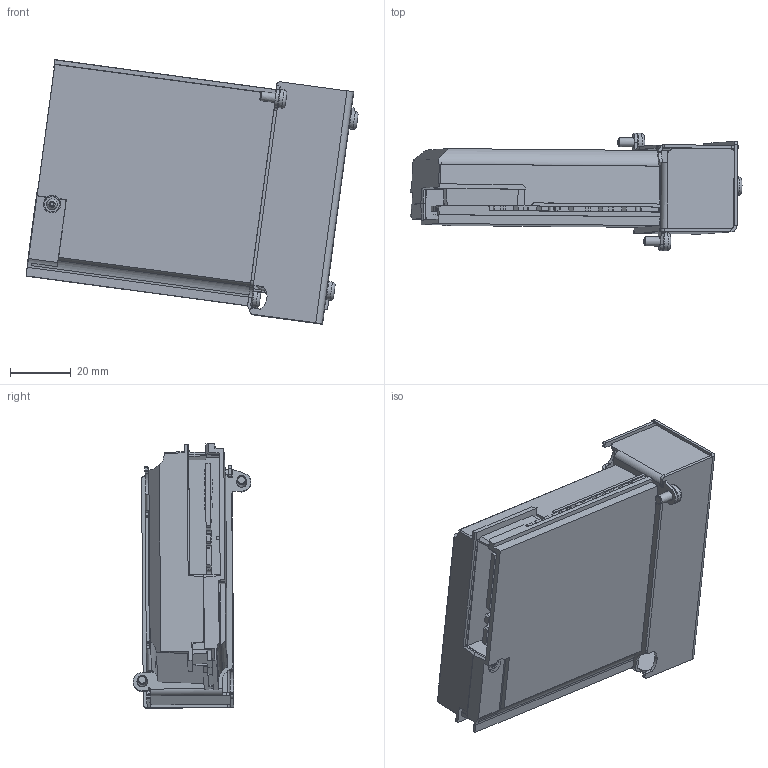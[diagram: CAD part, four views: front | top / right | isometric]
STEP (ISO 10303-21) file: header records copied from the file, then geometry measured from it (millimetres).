
FILE_DESCRIPTION(/* description */ (''),/* implementation_level */ '2;1');
FILE_NAME(/* name */ 'INT MOD ANY.stp',/* time_stamp */ '2024-11-07T10:37:55+01:00',/* author */ ('Simon'),/* organization */ (''),/* preprocessor_version */ 'ST-DEVELOPER v19.2',/* originating_system */ 'Autodesk Inventor 2024',/* authorisation */ '');
FILE_SCHEMA (('AUTOMOTIVE_DESIGN { 1 0 10303 214 3 1 1 }'));
Products named in the file (1): assembly int mod any_Simplify-07-11-2024
Bounding box: 109.24 x 38.73 x 87.07 mm (x, y, z)
Volume: 113753.3 mm3; surface area: 84349.5 mm2
Topology: 23 solids, 25 shells, 10061 faces, 27907 edges, 17579 vertices
Faces by surface type: plane 8236, cylinder 1485, bspline 195, cone 93, sphere 36, torus 16
Full cylindrical faces by diameter (mm): 0.104 x2, 0.43 x50, 0.5 x1, 0.6 x6, 1.5 x3, 1.7 x2, 1.8 x1, 2 x1, 2.2 x5, 2.4 x3, 2.459 x6, 2.6 x2, 3 x6, 3.2 x2, 3.4 x4, 3.5 x6, 5 x1, 6 x6, 6.8 x4
Entity records: 328618 total; most frequent: CARTESIAN_POINT 58628, ORIENTED_EDGE 55938, DIRECTION 50980, EDGE_CURVE 27969, LINE 24048, VECTOR 24048, VERTEX_POINT 17645, AXIS2_PLACEMENT_3D 13466
